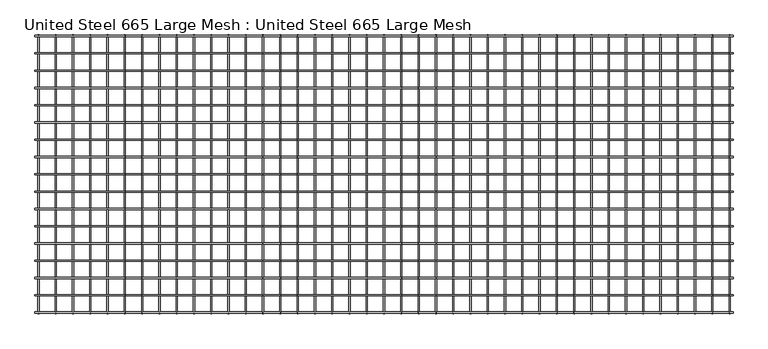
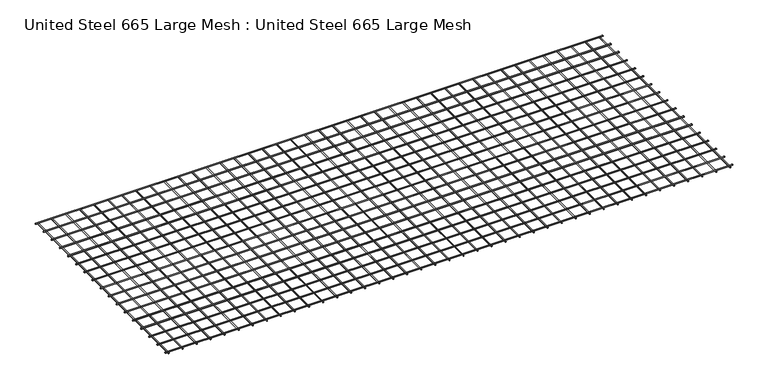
"""IFC4 building model written with IfcOpenShell, lengths in millimetres: proxy geometry, United Steel 665 Large Mesh : United Steel 665 Large Mesh."""

from ifc_helpers import new_model, si_unit, point, frame, frame_2d, origin, place, context, project, spatial, circle_curve, trimmed, segment, composite_curve, outline, extrude, source, transform, mapped, element, save


def united_steel_665_large_mesh_united_steel_665_large_mesh_bb33bdd1(model_context):
    return source(origin(), model_context, "Body", "SweptSolid", [
        extrude(outline(composite_curve([segment(trimmed(circle_curve(frame_2d((-160.2412954, 15.8848475)), 5.3), [point((-165.5412954, 15.8848475))], [point((-154.9412954, 15.8848475))], False, "CARTESIAN"), True, "CONTINUOUS"), segment(trimmed(circle_curve(frame_2d((-160.2412954, 15.8848475)), 5.3), [point((-154.9412954, 15.8848475))], [point((-165.5412954, 15.8848475))], False, "CARTESIAN"), True, "CONTINUOUS")], self_intersect=False)), frame((-6060.0, 0.0, 0.0), z_axis=(1.0, 0.0, 0.0), x_axis=(0.0, 1.0, 0.0)), (0.0, 0.0, 1.0), 6060.0),
        extrude(outline(composite_curve([segment(trimmed(circle_curve(frame_2d((-310.2279647, 15.8848475)), 5.3), [point((-315.5279647, 15.8848475))], [point((-304.9279647, 15.8848475))], False, "CARTESIAN"), True, "CONTINUOUS"), segment(trimmed(circle_curve(frame_2d((-310.2279647, 15.8848475)), 5.3), [point((-304.9279647, 15.8848475))], [point((-315.5279647, 15.8848475))], False, "CARTESIAN"), True, "CONTINUOUS")], self_intersect=False)), frame((-6060.0, 0.0, 0.0), z_axis=(1.0, 0.0, 0.0), x_axis=(0.0, 1.0, 0.0)), (0.0, 0.0, 1.0), 6060.0),
        extrude(outline(composite_curve([segment(trimmed(circle_curve(frame_2d((-460.214634, 15.8848475)), 5.3), [point((-465.514634, 15.8848475))], [point((-454.914634, 15.8848475))], False, "CARTESIAN"), True, "CONTINUOUS"), segment(trimmed(circle_curve(frame_2d((-460.214634, 15.8848475)), 5.3), [point((-454.914634, 15.8848475))], [point((-465.514634, 15.8848475))], False, "CARTESIAN"), True, "CONTINUOUS")], self_intersect=False)), frame((-6060.0, 0.0, 0.0), z_axis=(1.0, 0.0, 0.0), x_axis=(0.0, 1.0, 0.0)), (0.0, 0.0, 1.0), 6060.0),
        extrude(outline(composite_curve([segment(trimmed(circle_curve(frame_2d((5.2898928, -5879.1179494)), 5.3), [point((5.2898928, -5884.4179494))], [point((5.2898928, -5873.8179494))], False, "CARTESIAN"), True, "CONTINUOUS"), segment(trimmed(circle_curve(frame_2d((5.2898928, -5879.1179494)), 5.3), [point((5.2898928, -5873.8179494))], [point((5.2898928, -5884.4179494))], False, "CARTESIAN"), True, "CONTINUOUS")], self_intersect=False)), frame((0.0, -2420.0, 0.0), z_axis=(0.0, 1.0, 0.0), x_axis=(0.0, 0.0, 1.0)), (0.0, 0.0, 1.0), 2420.0),
        extrude(outline(composite_curve([segment(trimmed(circle_curve(frame_2d((5.2898928, -5729.136548)), 5.3), [point((5.2898928, -5734.436548))], [point((5.2898928, -5723.836548))], False, "CARTESIAN"), True, "CONTINUOUS"), segment(trimmed(circle_curve(frame_2d((5.2898928, -5729.136548)), 5.3), [point((5.2898928, -5723.836548))], [point((5.2898928, -5734.436548))], False, "CARTESIAN"), True, "CONTINUOUS")], self_intersect=False)), frame((0.0, -2420.0, 0.0), z_axis=(0.0, 1.0, 0.0), x_axis=(0.0, 0.0, 1.0)), (0.0, 0.0, 1.0), 2420.0),
        extrude(outline(composite_curve([segment(trimmed(circle_curve(frame_2d((5.2898928, -5579.1551467)), 5.3), [point((5.2898928, -5584.4551467))], [point((5.2898928, -5573.8551467))], False, "CARTESIAN"), True, "CONTINUOUS"), segment(trimmed(circle_curve(frame_2d((5.2898928, -5579.1551467)), 5.3), [point((5.2898928, -5573.8551467))], [point((5.2898928, -5584.4551467))], False, "CARTESIAN"), True, "CONTINUOUS")], self_intersect=False)), frame((0.0, -2420.0, 0.0), z_axis=(0.0, 1.0, 0.0), x_axis=(0.0, 0.0, 1.0)), (0.0, 0.0, 1.0), 2420.0),
        extrude(outline(composite_curve([segment(trimmed(circle_curve(frame_2d((5.2898928, -5429.1737454)), 5.3), [point((5.2898928, -5434.4737454))], [point((5.2898928, -5423.8737454))], False, "CARTESIAN"), True, "CONTINUOUS"), segment(trimmed(circle_curve(frame_2d((5.2898928, -5429.1737454)), 5.3), [point((5.2898928, -5423.8737454))], [point((5.2898928, -5434.4737454))], False, "CARTESIAN"), True, "CONTINUOUS")], self_intersect=False)), frame((0.0, -2420.0, 0.0), z_axis=(0.0, 1.0, 0.0), x_axis=(0.0, 0.0, 1.0)), (0.0, 0.0, 1.0), 2420.0),
        extrude(outline(composite_curve([segment(trimmed(circle_curve(frame_2d((5.2898928, -5279.1923441)), 5.3), [point((5.2898928, -5284.4923441))], [point((5.2898928, -5273.8923441))], False, "CARTESIAN"), True, "CONTINUOUS"), segment(trimmed(circle_curve(frame_2d((5.2898928, -5279.1923441)), 5.3), [point((5.2898928, -5273.8923441))], [point((5.2898928, -5284.4923441))], False, "CARTESIAN"), True, "CONTINUOUS")], self_intersect=False)), frame((0.0, -2420.0, 0.0), z_axis=(0.0, 1.0, 0.0), x_axis=(0.0, 0.0, 1.0)), (0.0, 0.0, 1.0), 2420.0),
        extrude(outline(composite_curve([segment(trimmed(circle_curve(frame_2d((5.2898928, -5129.2109428)), 5.3), [point((5.2898928, -5134.5109428))], [point((5.2898928, -5123.9109428))], False, "CARTESIAN"), True, "CONTINUOUS"), segment(trimmed(circle_curve(frame_2d((5.2898928, -5129.2109428)), 5.3), [point((5.2898928, -5123.9109428))], [point((5.2898928, -5134.5109428))], False, "CARTESIAN"), True, "CONTINUOUS")], self_intersect=False)), frame((0.0, -2420.0, 0.0), z_axis=(0.0, 1.0, 0.0), x_axis=(0.0, 0.0, 1.0)), (0.0, 0.0, 1.0), 2420.0),
        extrude(outline(composite_curve([segment(trimmed(circle_curve(frame_2d((5.2898928, -4979.2295415)), 5.3), [point((5.2898928, -4984.5295415))], [point((5.2898928, -4973.9295415))], False, "CARTESIAN"), True, "CONTINUOUS"), segment(trimmed(circle_curve(frame_2d((5.2898928, -4979.2295415)), 5.3), [point((5.2898928, -4973.9295415))], [point((5.2898928, -4984.5295415))], False, "CARTESIAN"), True, "CONTINUOUS")], self_intersect=False)), frame((0.0, -2420.0, 0.0), z_axis=(0.0, 1.0, 0.0), x_axis=(0.0, 0.0, 1.0)), (0.0, 0.0, 1.0), 2420.0),
        extrude(outline(composite_curve([segment(trimmed(circle_curve(frame_2d((5.2898928, -4829.2481401)), 5.3), [point((5.2898928, -4834.5481401))], [point((5.2898928, -4823.9481401))], False, "CARTESIAN"), True, "CONTINUOUS"), segment(trimmed(circle_curve(frame_2d((5.2898928, -4829.2481401)), 5.3), [point((5.2898928, -4823.9481401))], [point((5.2898928, -4834.5481401))], False, "CARTESIAN"), True, "CONTINUOUS")], self_intersect=False)), frame((0.0, -2420.0, 0.0), z_axis=(0.0, 1.0, 0.0), x_axis=(0.0, 0.0, 1.0)), (0.0, 0.0, 1.0), 2420.0),
        extrude(outline(composite_curve([segment(trimmed(circle_curve(frame_2d((5.2898928, -4679.2667388)), 5.3), [point((5.2898928, -4684.5667388))], [point((5.2898928, -4673.9667388))], False, "CARTESIAN"), True, "CONTINUOUS"), segment(trimmed(circle_curve(frame_2d((5.2898928, -4679.2667388)), 5.3), [point((5.2898928, -4673.9667388))], [point((5.2898928, -4684.5667388))], False, "CARTESIAN"), True, "CONTINUOUS")], self_intersect=False)), frame((0.0, -2420.0, 0.0), z_axis=(0.0, 1.0, 0.0), x_axis=(0.0, 0.0, 1.0)), (0.0, 0.0, 1.0), 2420.0),
        extrude(outline(composite_curve([segment(trimmed(circle_curve(frame_2d((5.2898928, -4529.2853375)), 5.3), [point((5.2898928, -4534.5853375))], [point((5.2898928, -4523.9853375))], False, "CARTESIAN"), True, "CONTINUOUS"), segment(trimmed(circle_curve(frame_2d((5.2898928, -4529.2853375)), 5.3), [point((5.2898928, -4523.9853375))], [point((5.2898928, -4534.5853375))], False, "CARTESIAN"), True, "CONTINUOUS")], self_intersect=False)), frame((0.0, -2420.0, 0.0), z_axis=(0.0, 1.0, 0.0), x_axis=(0.0, 0.0, 1.0)), (0.0, 0.0, 1.0), 2420.0),
        extrude(outline(composite_curve([segment(trimmed(circle_curve(frame_2d((-610.2013032, 15.8848475)), 5.3), [point((-615.5013032, 15.8848475))], [point((-604.9013032, 15.8848475))], False, "CARTESIAN"), True, "CONTINUOUS"), segment(trimmed(circle_curve(frame_2d((-610.2013032, 15.8848475)), 5.3), [point((-604.9013032, 15.8848475))], [point((-615.5013032, 15.8848475))], False, "CARTESIAN"), True, "CONTINUOUS")], self_intersect=False)), frame((-6060.0, 0.0, 0.0), z_axis=(1.0, 0.0, 0.0), x_axis=(0.0, 1.0, 0.0)), (0.0, 0.0, 1.0), 6060.0),
        extrude(outline(composite_curve([segment(trimmed(circle_curve(frame_2d((5.2898928, -4379.3039362)), 5.3), [point((5.2898928, -4384.6039362))], [point((5.2898928, -4374.0039362))], False, "CARTESIAN"), True, "CONTINUOUS"), segment(trimmed(circle_curve(frame_2d((5.2898928, -4379.3039362)), 5.3), [point((5.2898928, -4374.0039362))], [point((5.2898928, -4384.6039362))], False, "CARTESIAN"), True, "CONTINUOUS")], self_intersect=False)), frame((0.0, -2420.0, 0.0), z_axis=(0.0, 1.0, 0.0), x_axis=(0.0, 0.0, 1.0)), (0.0, 0.0, 1.0), 2420.0),
        extrude(outline(composite_curve([segment(trimmed(circle_curve(frame_2d((-760.1879725, 15.8848475)), 5.3), [point((-765.4879725, 15.8848475))], [point((-754.8879725, 15.8848475))], False, "CARTESIAN"), True, "CONTINUOUS"), segment(trimmed(circle_curve(frame_2d((-760.1879725, 15.8848475)), 5.3), [point((-754.8879725, 15.8848475))], [point((-765.4879725, 15.8848475))], False, "CARTESIAN"), True, "CONTINUOUS")], self_intersect=False)), frame((-6060.0, 0.0, 0.0), z_axis=(1.0, 0.0, 0.0), x_axis=(0.0, 1.0, 0.0)), (0.0, 0.0, 1.0), 6060.0),
        extrude(outline(composite_curve([segment(trimmed(circle_curve(frame_2d((-910.1746417, 15.8848475)), 5.3), [point((-915.4746417, 15.8848475))], [point((-904.8746417, 15.8848475))], False, "CARTESIAN"), True, "CONTINUOUS"), segment(trimmed(circle_curve(frame_2d((-910.1746417, 15.8848475)), 5.3), [point((-904.8746417, 15.8848475))], [point((-915.4746417, 15.8848475))], False, "CARTESIAN"), True, "CONTINUOUS")], self_intersect=False)), frame((-6060.0, 0.0, 0.0), z_axis=(1.0, 0.0, 0.0), x_axis=(0.0, 1.0, 0.0)), (0.0, 0.0, 1.0), 6060.0),
        extrude(outline(composite_curve([segment(trimmed(circle_curve(frame_2d((5.2898928, -4229.3225349)), 5.3), [point((5.2898928, -4234.6225349))], [point((5.2898928, -4224.0225349))], False, "CARTESIAN"), True, "CONTINUOUS"), segment(trimmed(circle_curve(frame_2d((5.2898928, -4229.3225349)), 5.3), [point((5.2898928, -4224.0225349))], [point((5.2898928, -4234.6225349))], False, "CARTESIAN"), True, "CONTINUOUS")], self_intersect=False)), frame((0.0, -2420.0, 0.0), z_axis=(0.0, 1.0, 0.0), x_axis=(0.0, 0.0, 1.0)), (0.0, 0.0, 1.0), 2420.0),
        extrude(outline(composite_curve([segment(trimmed(circle_curve(frame_2d((5.2898928, -4079.3411336)), 5.3), [point((5.2898928, -4084.6411336))], [point((5.2898928, -4074.0411336))], False, "CARTESIAN"), True, "CONTINUOUS"), segment(trimmed(circle_curve(frame_2d((5.2898928, -4079.3411336)), 5.3), [point((5.2898928, -4074.0411336))], [point((5.2898928, -4084.6411336))], False, "CARTESIAN"), True, "CONTINUOUS")], self_intersect=False)), frame((0.0, -2420.0, 0.0), z_axis=(0.0, 1.0, 0.0), x_axis=(0.0, 0.0, 1.0)), (0.0, 0.0, 1.0), 2420.0),
        extrude(outline(composite_curve([segment(trimmed(circle_curve(frame_2d((5.2898928, -3929.3597323)), 5.3), [point((5.2898928, -3934.6597323))], [point((5.2898928, -3924.0597323))], False, "CARTESIAN"), True, "CONTINUOUS"), segment(trimmed(circle_curve(frame_2d((5.2898928, -3929.3597323)), 5.3), [point((5.2898928, -3924.0597323))], [point((5.2898928, -3934.6597323))], False, "CARTESIAN"), True, "CONTINUOUS")], self_intersect=False)), frame((0.0, -2420.0, 0.0), z_axis=(0.0, 1.0, 0.0), x_axis=(0.0, 0.0, 1.0)), (0.0, 0.0, 1.0), 2420.0),
        extrude(outline(composite_curve([segment(trimmed(circle_curve(frame_2d((5.2898928, -3779.3783309)), 5.3), [point((5.2898928, -3784.6783309))], [point((5.2898928, -3774.0783309))], False, "CARTESIAN"), True, "CONTINUOUS"), segment(trimmed(circle_curve(frame_2d((5.2898928, -3779.3783309)), 5.3), [point((5.2898928, -3774.0783309))], [point((5.2898928, -3784.6783309))], False, "CARTESIAN"), True, "CONTINUOUS")], self_intersect=False)), frame((0.0, -2420.0, 0.0), z_axis=(0.0, 1.0, 0.0), x_axis=(0.0, 0.0, 1.0)), (0.0, 0.0, 1.0), 2420.0),
        extrude(outline(composite_curve([segment(trimmed(circle_curve(frame_2d((5.2898928, -3629.3969296)), 5.3), [point((5.2898928, -3634.6969296))], [point((5.2898928, -3624.0969296))], False, "CARTESIAN"), True, "CONTINUOUS"), segment(trimmed(circle_curve(frame_2d((5.2898928, -3629.3969296)), 5.3), [point((5.2898928, -3624.0969296))], [point((5.2898928, -3634.6969296))], False, "CARTESIAN"), True, "CONTINUOUS")], self_intersect=False)), frame((0.0, -2420.0, 0.0), z_axis=(0.0, 1.0, 0.0), x_axis=(0.0, 0.0, 1.0)), (0.0, 0.0, 1.0), 2420.0),
        extrude(outline(composite_curve([segment(trimmed(circle_curve(frame_2d((5.2898928, -3479.4155283)), 5.3), [point((5.2898928, -3484.7155283))], [point((5.2898928, -3474.1155283))], False, "CARTESIAN"), True, "CONTINUOUS"), segment(trimmed(circle_curve(frame_2d((5.2898928, -3479.4155283)), 5.3), [point((5.2898928, -3474.1155283))], [point((5.2898928, -3484.7155283))], False, "CARTESIAN"), True, "CONTINUOUS")], self_intersect=False)), frame((0.0, -2420.0, 0.0), z_axis=(0.0, 1.0, 0.0), x_axis=(0.0, 0.0, 1.0)), (0.0, 0.0, 1.0), 2420.0),
        extrude(outline(composite_curve([segment(trimmed(circle_curve(frame_2d((5.2898928, -3329.434127)), 5.3), [point((5.2898928, -3334.734127))], [point((5.2898928, -3324.134127))], False, "CARTESIAN"), True, "CONTINUOUS"), segment(trimmed(circle_curve(frame_2d((5.2898928, -3329.434127)), 5.3), [point((5.2898928, -3324.134127))], [point((5.2898928, -3334.734127))], False, "CARTESIAN"), True, "CONTINUOUS")], self_intersect=False)), frame((0.0, -2420.0, 0.0), z_axis=(0.0, 1.0, 0.0), x_axis=(0.0, 0.0, 1.0)), (0.0, 0.0, 1.0), 2420.0),
        extrude(outline(composite_curve([segment(trimmed(circle_curve(frame_2d((-1060.161311, 15.8848475)), 5.3), [point((-1065.461311, 15.8848475))], [point((-1054.861311, 15.8848475))], False, "CARTESIAN"), True, "CONTINUOUS"), segment(trimmed(circle_curve(frame_2d((-1060.161311, 15.8848475)), 5.3), [point((-1054.861311, 15.8848475))], [point((-1065.461311, 15.8848475))], False, "CARTESIAN"), True, "CONTINUOUS")], self_intersect=False)), frame((-6060.0, 0.0, 0.0), z_axis=(1.0, 0.0, 0.0), x_axis=(0.0, 1.0, 0.0)), (0.0, 0.0, 1.0), 6060.0),
        extrude(outline(composite_curve([segment(trimmed(circle_curve(frame_2d((-1210.1479802, 15.8848475)), 5.3), [point((-1215.4479802, 15.8848475))], [point((-1204.8479802, 15.8848475))], False, "CARTESIAN"), True, "CONTINUOUS"), segment(trimmed(circle_curve(frame_2d((-1210.1479802, 15.8848475)), 5.3), [point((-1204.8479802, 15.8848475))], [point((-1215.4479802, 15.8848475))], False, "CARTESIAN"), True, "CONTINUOUS")], self_intersect=False)), frame((-6060.0, 0.0, 0.0), z_axis=(1.0, 0.0, 0.0), x_axis=(0.0, 1.0, 0.0)), (0.0, 0.0, 1.0), 6060.0),
        extrude(outline(composite_curve([segment(trimmed(circle_curve(frame_2d((-1360.1346495, 15.8848475)), 5.3), [point((-1365.4346495, 15.8848475))], [point((-1354.8346495, 15.8848475))], False, "CARTESIAN"), True, "CONTINUOUS"), segment(trimmed(circle_curve(frame_2d((-1360.1346495, 15.8848475)), 5.3), [point((-1354.8346495, 15.8848475))], [point((-1365.4346495, 15.8848475))], False, "CARTESIAN"), True, "CONTINUOUS")], self_intersect=False)), frame((-6060.0, 0.0, 0.0), z_axis=(1.0, 0.0, 0.0), x_axis=(0.0, 1.0, 0.0)), (0.0, 0.0, 1.0), 6060.0),
        extrude(outline(composite_curve([segment(trimmed(circle_curve(frame_2d((-1510.1213187, 15.8848475)), 5.3), [point((-1515.4213187, 15.8848475))], [point((-1504.8213187, 15.8848475))], False, "CARTESIAN"), True, "CONTINUOUS"), segment(trimmed(circle_curve(frame_2d((-1510.1213187, 15.8848475)), 5.3), [point((-1504.8213187, 15.8848475))], [point((-1515.4213187, 15.8848475))], False, "CARTESIAN"), True, "CONTINUOUS")], self_intersect=False)), frame((-6060.0, 0.0, 0.0), z_axis=(1.0, 0.0, 0.0), x_axis=(0.0, 1.0, 0.0)), (0.0, 0.0, 1.0), 6060.0),
        extrude(outline(composite_curve([segment(trimmed(circle_curve(frame_2d((-1660.107988, 15.8848475)), 5.3), [point((-1665.407988, 15.8848475))], [point((-1654.807988, 15.8848475))], False, "CARTESIAN"), True, "CONTINUOUS"), segment(trimmed(circle_curve(frame_2d((-1660.107988, 15.8848475)), 5.3), [point((-1654.807988, 15.8848475))], [point((-1665.407988, 15.8848475))], False, "CARTESIAN"), True, "CONTINUOUS")], self_intersect=False)), frame((-6060.0, 0.0, 0.0), z_axis=(1.0, 0.0, 0.0), x_axis=(0.0, 1.0, 0.0)), (0.0, 0.0, 1.0), 6060.0),
        extrude(outline(composite_curve([segment(trimmed(circle_curve(frame_2d((-1810.0946573, 15.8848475)), 5.3), [point((-1815.3946573, 15.8848475))], [point((-1804.7946573, 15.8848475))], False, "CARTESIAN"), True, "CONTINUOUS"), segment(trimmed(circle_curve(frame_2d((-1810.0946573, 15.8848475)), 5.3), [point((-1804.7946573, 15.8848475))], [point((-1815.3946573, 15.8848475))], False, "CARTESIAN"), True, "CONTINUOUS")], self_intersect=False)), frame((-6060.0, 0.0, 0.0), z_axis=(1.0, 0.0, 0.0), x_axis=(0.0, 1.0, 0.0)), (0.0, 0.0, 1.0), 6060.0),
        extrude(outline(composite_curve([segment(trimmed(circle_curve(frame_2d((-1960.0813265, 15.8848475)), 5.3), [point((-1965.3813265, 15.8848475))], [point((-1954.7813265, 15.8848475))], False, "CARTESIAN"), True, "CONTINUOUS"), segment(trimmed(circle_curve(frame_2d((-1960.0813265, 15.8848475)), 5.3), [point((-1954.7813265, 15.8848475))], [point((-1965.3813265, 15.8848475))], False, "CARTESIAN"), True, "CONTINUOUS")], self_intersect=False)), frame((-6060.0, 0.0, 0.0), z_axis=(1.0, 0.0, 0.0), x_axis=(0.0, 1.0, 0.0)), (0.0, 0.0, 1.0), 6060.0),
        extrude(outline(composite_curve([segment(trimmed(circle_curve(frame_2d((-2110.0679958, 15.8848475)), 5.3), [point((-2115.3679958, 15.8848475))], [point((-2104.7679958, 15.8848475))], False, "CARTESIAN"), True, "CONTINUOUS"), segment(trimmed(circle_curve(frame_2d((-2110.0679958, 15.8848475)), 5.3), [point((-2104.7679958, 15.8848475))], [point((-2115.3679958, 15.8848475))], False, "CARTESIAN"), True, "CONTINUOUS")], self_intersect=False)), frame((-6060.0, 0.0, 0.0), z_axis=(1.0, 0.0, 0.0), x_axis=(0.0, 1.0, 0.0)), (0.0, 0.0, 1.0), 6060.0),
        extrude(outline(composite_curve([segment(trimmed(circle_curve(frame_2d((-2260.054665, 15.8848475)), 5.3), [point((-2265.354665, 15.8848475))], [point((-2254.754665, 15.8848475))], False, "CARTESIAN"), True, "CONTINUOUS"), segment(trimmed(circle_curve(frame_2d((-2260.054665, 15.8848475)), 5.3), [point((-2254.754665, 15.8848475))], [point((-2265.354665, 15.8848475))], False, "CARTESIAN"), True, "CONTINUOUS")], self_intersect=False)), frame((-6060.0, 0.0, 0.0), z_axis=(1.0, 0.0, 0.0), x_axis=(0.0, 1.0, 0.0)), (0.0, 0.0, 1.0), 6060.0),
        extrude(outline(composite_curve([segment(trimmed(circle_curve(frame_2d((-10.2546262, 15.8848475)), 5.3), [point((-15.5546262, 15.8848475))], [point((-4.9546262, 15.8848475))], False, "CARTESIAN"), True, "CONTINUOUS"), segment(trimmed(circle_curve(frame_2d((-10.2546262, 15.8848475)), 5.3), [point((-4.9546262, 15.8848475))], [point((-15.5546262, 15.8848475))], False, "CARTESIAN"), True, "CONTINUOUS")], self_intersect=False)), frame((-6060.0, 0.0, 0.0), z_axis=(1.0, 0.0, 0.0), x_axis=(0.0, 1.0, 0.0)), (0.0, 0.0, 1.0), 6060.0),
        extrude(outline(composite_curve([segment(trimmed(circle_curve(frame_2d((-2410.0413343, 15.8848475)), 5.3), [point((-2415.3413343, 15.8848475))], [point((-2404.7413343, 15.8848475))], False, "CARTESIAN"), True, "CONTINUOUS"), segment(trimmed(circle_curve(frame_2d((-2410.0413343, 15.8848475)), 5.3), [point((-2404.7413343, 15.8848475))], [point((-2415.3413343, 15.8848475))], False, "CARTESIAN"), True, "CONTINUOUS")], self_intersect=False)), frame((-6060.0, 0.0, 0.0), z_axis=(1.0, 0.0, 0.0), x_axis=(0.0, 1.0, 0.0)), (0.0, 0.0, 1.0), 6060.0),
        extrude(outline(composite_curve([segment(trimmed(circle_curve(frame_2d((5.2898928, -3179.4527257)), 5.3), [point((5.2898928, -3184.7527257))], [point((5.2898928, -3174.1527257))], False, "CARTESIAN"), True, "CONTINUOUS"), segment(trimmed(circle_curve(frame_2d((5.2898928, -3179.4527257)), 5.3), [point((5.2898928, -3174.1527257))], [point((5.2898928, -3184.7527257))], False, "CARTESIAN"), True, "CONTINUOUS")], self_intersect=False)), frame((0.0, -2420.0, 0.0), z_axis=(0.0, 1.0, 0.0), x_axis=(0.0, 0.0, 1.0)), (0.0, 0.0, 1.0), 2420.0),
        extrude(outline(composite_curve([segment(trimmed(circle_curve(frame_2d((5.2898928, -3029.4713244)), 5.3), [point((5.2898928, -3034.7713244))], [point((5.2898928, -3024.1713244))], False, "CARTESIAN"), True, "CONTINUOUS"), segment(trimmed(circle_curve(frame_2d((5.2898928, -3029.4713244)), 5.3), [point((5.2898928, -3024.1713244))], [point((5.2898928, -3034.7713244))], False, "CARTESIAN"), True, "CONTINUOUS")], self_intersect=False)), frame((0.0, -2420.0, 0.0), z_axis=(0.0, 1.0, 0.0), x_axis=(0.0, 0.0, 1.0)), (0.0, 0.0, 1.0), 2420.0),
        extrude(outline(composite_curve([segment(trimmed(circle_curve(frame_2d((5.2898928, -2879.489923)), 5.3), [point((5.2898928, -2884.789923))], [point((5.2898928, -2874.189923))], False, "CARTESIAN"), True, "CONTINUOUS"), segment(trimmed(circle_curve(frame_2d((5.2898928, -2879.489923)), 5.3), [point((5.2898928, -2874.189923))], [point((5.2898928, -2884.789923))], False, "CARTESIAN"), True, "CONTINUOUS")], self_intersect=False)), frame((0.0, -2420.0, 0.0), z_axis=(0.0, 1.0, 0.0), x_axis=(0.0, 0.0, 1.0)), (0.0, 0.0, 1.0), 2420.0),
        extrude(outline(composite_curve([segment(trimmed(circle_curve(frame_2d((5.2898928, -2729.5085217)), 5.3), [point((5.2898928, -2734.8085217))], [point((5.2898928, -2724.2085217))], False, "CARTESIAN"), True, "CONTINUOUS"), segment(trimmed(circle_curve(frame_2d((5.2898928, -2729.5085217)), 5.3), [point((5.2898928, -2724.2085217))], [point((5.2898928, -2734.8085217))], False, "CARTESIAN"), True, "CONTINUOUS")], self_intersect=False)), frame((0.0, -2420.0, 0.0), z_axis=(0.0, 1.0, 0.0), x_axis=(0.0, 0.0, 1.0)), (0.0, 0.0, 1.0), 2420.0),
        extrude(outline(composite_curve([segment(trimmed(circle_curve(frame_2d((5.2898928, -2579.5271204)), 5.3), [point((5.2898928, -2584.8271204))], [point((5.2898928, -2574.2271204))], False, "CARTESIAN"), True, "CONTINUOUS"), segment(trimmed(circle_curve(frame_2d((5.2898928, -2579.5271204)), 5.3), [point((5.2898928, -2574.2271204))], [point((5.2898928, -2584.8271204))], False, "CARTESIAN"), True, "CONTINUOUS")], self_intersect=False)), frame((0.0, -2420.0, 0.0), z_axis=(0.0, 1.0, 0.0), x_axis=(0.0, 0.0, 1.0)), (0.0, 0.0, 1.0), 2420.0),
        extrude(outline(composite_curve([segment(trimmed(circle_curve(frame_2d((5.2898928, -2429.5457191)), 5.3), [point((5.2898928, -2434.8457191))], [point((5.2898928, -2424.2457191))], False, "CARTESIAN"), True, "CONTINUOUS"), segment(trimmed(circle_curve(frame_2d((5.2898928, -2429.5457191)), 5.3), [point((5.2898928, -2424.2457191))], [point((5.2898928, -2434.8457191))], False, "CARTESIAN"), True, "CONTINUOUS")], self_intersect=False)), frame((0.0, -2420.0, 0.0), z_axis=(0.0, 1.0, 0.0), x_axis=(0.0, 0.0, 1.0)), (0.0, 0.0, 1.0), 2420.0),
        extrude(outline(composite_curve([segment(trimmed(circle_curve(frame_2d((5.2898928, -2279.5643178)), 5.3), [point((5.2898928, -2284.8643178))], [point((5.2898928, -2274.2643178))], False, "CARTESIAN"), True, "CONTINUOUS"), segment(trimmed(circle_curve(frame_2d((5.2898928, -2279.5643178)), 5.3), [point((5.2898928, -2274.2643178))], [point((5.2898928, -2284.8643178))], False, "CARTESIAN"), True, "CONTINUOUS")], self_intersect=False)), frame((0.0, -2420.0, 0.0), z_axis=(0.0, 1.0, 0.0), x_axis=(0.0, 0.0, 1.0)), (0.0, 0.0, 1.0), 2420.0),
        extrude(outline(composite_curve([segment(trimmed(circle_curve(frame_2d((5.2898928, -2129.5829165)), 5.3), [point((5.2898928, -2134.8829165))], [point((5.2898928, -2124.2829165))], False, "CARTESIAN"), True, "CONTINUOUS"), segment(trimmed(circle_curve(frame_2d((5.2898928, -2129.5829165)), 5.3), [point((5.2898928, -2124.2829165))], [point((5.2898928, -2134.8829165))], False, "CARTESIAN"), True, "CONTINUOUS")], self_intersect=False)), frame((0.0, -2420.0, 0.0), z_axis=(0.0, 1.0, 0.0), x_axis=(0.0, 0.0, 1.0)), (0.0, 0.0, 1.0), 2420.0),
        extrude(outline(composite_curve([segment(trimmed(circle_curve(frame_2d((5.2898928, -1979.6015152)), 5.3), [point((5.2898928, -1984.9015152))], [point((5.2898928, -1974.3015152))], False, "CARTESIAN"), True, "CONTINUOUS"), segment(trimmed(circle_curve(frame_2d((5.2898928, -1979.6015152)), 5.3), [point((5.2898928, -1974.3015152))], [point((5.2898928, -1984.9015152))], False, "CARTESIAN"), True, "CONTINUOUS")], self_intersect=False)), frame((0.0, -2420.0, 0.0), z_axis=(0.0, 1.0, 0.0), x_axis=(0.0, 0.0, 1.0)), (0.0, 0.0, 1.0), 2420.0),
        extrude(outline(composite_curve([segment(trimmed(circle_curve(frame_2d((5.2898928, -1829.6201138)), 5.3), [point((5.2898928, -1834.9201138))], [point((5.2898928, -1824.3201138))], False, "CARTESIAN"), True, "CONTINUOUS"), segment(trimmed(circle_curve(frame_2d((5.2898928, -1829.6201138)), 5.3), [point((5.2898928, -1824.3201138))], [point((5.2898928, -1834.9201138))], False, "CARTESIAN"), True, "CONTINUOUS")], self_intersect=False)), frame((0.0, -2420.0, 0.0), z_axis=(0.0, 1.0, 0.0), x_axis=(0.0, 0.0, 1.0)), (0.0, 0.0, 1.0), 2420.0),
        extrude(outline(composite_curve([segment(trimmed(circle_curve(frame_2d((5.2898928, -1679.6387125)), 5.3), [point((5.2898928, -1684.9387125))], [point((5.2898928, -1674.3387125))], False, "CARTESIAN"), True, "CONTINUOUS"), segment(trimmed(circle_curve(frame_2d((5.2898928, -1679.6387125)), 5.3), [point((5.2898928, -1674.3387125))], [point((5.2898928, -1684.9387125))], False, "CARTESIAN"), True, "CONTINUOUS")], self_intersect=False)), frame((0.0, -2420.0, 0.0), z_axis=(0.0, 1.0, 0.0), x_axis=(0.0, 0.0, 1.0)), (0.0, 0.0, 1.0), 2420.0),
        extrude(outline(composite_curve([segment(trimmed(circle_curve(frame_2d((5.2898928, -1529.6573112)), 5.3), [point((5.2898928, -1534.9573112))], [point((5.2898928, -1524.3573112))], False, "CARTESIAN"), True, "CONTINUOUS"), segment(trimmed(circle_curve(frame_2d((5.2898928, -1529.6573112)), 5.3), [point((5.2898928, -1524.3573112))], [point((5.2898928, -1534.9573112))], False, "CARTESIAN"), True, "CONTINUOUS")], self_intersect=False)), frame((0.0, -2420.0, 0.0), z_axis=(0.0, 1.0, 0.0), x_axis=(0.0, 0.0, 1.0)), (0.0, 0.0, 1.0), 2420.0),
        extrude(outline(composite_curve([segment(trimmed(circle_curve(frame_2d((5.2898928, -1379.6759099)), 5.3), [point((5.2898928, -1384.9759099))], [point((5.2898928, -1374.3759099))], False, "CARTESIAN"), True, "CONTINUOUS"), segment(trimmed(circle_curve(frame_2d((5.2898928, -1379.6759099)), 5.3), [point((5.2898928, -1374.3759099))], [point((5.2898928, -1384.9759099))], False, "CARTESIAN"), True, "CONTINUOUS")], self_intersect=False)), frame((0.0, -2420.0, 0.0), z_axis=(0.0, 1.0, 0.0), x_axis=(0.0, 0.0, 1.0)), (0.0, 0.0, 1.0), 2420.0),
        extrude(outline(composite_curve([segment(trimmed(circle_curve(frame_2d((5.2898928, -1229.6945086)), 5.3), [point((5.2898928, -1234.9945086))], [point((5.2898928, -1224.3945086))], False, "CARTESIAN"), True, "CONTINUOUS"), segment(trimmed(circle_curve(frame_2d((5.2898928, -1229.6945086)), 5.3), [point((5.2898928, -1224.3945086))], [point((5.2898928, -1234.9945086))], False, "CARTESIAN"), True, "CONTINUOUS")], self_intersect=False)), frame((0.0, -2420.0, 0.0), z_axis=(0.0, 1.0, 0.0), x_axis=(0.0, 0.0, 1.0)), (0.0, 0.0, 1.0), 2420.0),
        extrude(outline(composite_curve([segment(trimmed(circle_curve(frame_2d((5.2898928, -1079.7131073)), 5.3), [point((5.2898928, -1085.0131073))], [point((5.2898928, -1074.4131073))], False, "CARTESIAN"), True, "CONTINUOUS"), segment(trimmed(circle_curve(frame_2d((5.2898928, -1079.7131073)), 5.3), [point((5.2898928, -1074.4131073))], [point((5.2898928, -1085.0131073))], False, "CARTESIAN"), True, "CONTINUOUS")], self_intersect=False)), frame((0.0, -2420.0, 0.0), z_axis=(0.0, 1.0, 0.0), x_axis=(0.0, 0.0, 1.0)), (0.0, 0.0, 1.0), 2420.0),
        extrude(outline(composite_curve([segment(trimmed(circle_curve(frame_2d((5.2898928, -929.7317059)), 5.3), [point((5.2898928, -935.0317059))], [point((5.2898928, -924.4317059))], False, "CARTESIAN"), True, "CONTINUOUS"), segment(trimmed(circle_curve(frame_2d((5.2898928, -929.7317059)), 5.3), [point((5.2898928, -924.4317059))], [point((5.2898928, -935.0317059))], False, "CARTESIAN"), True, "CONTINUOUS")], self_intersect=False)), frame((0.0, -2420.0, 0.0), z_axis=(0.0, 1.0, 0.0), x_axis=(0.0, 0.0, 1.0)), (0.0, 0.0, 1.0), 2420.0),
        extrude(outline(composite_curve([segment(trimmed(circle_curve(frame_2d((5.2898928, -779.7503046)), 5.3), [point((5.2898928, -785.0503046))], [point((5.2898928, -774.4503046))], False, "CARTESIAN"), True, "CONTINUOUS"), segment(trimmed(circle_curve(frame_2d((5.2898928, -779.7503046)), 5.3), [point((5.2898928, -774.4503046))], [point((5.2898928, -785.0503046))], False, "CARTESIAN"), True, "CONTINUOUS")], self_intersect=False)), frame((0.0, -2420.0, 0.0), z_axis=(0.0, 1.0, 0.0), x_axis=(0.0, 0.0, 1.0)), (0.0, 0.0, 1.0), 2420.0),
        extrude(outline(composite_curve([segment(trimmed(circle_curve(frame_2d((5.2898928, -629.7689033)), 5.3), [point((5.2898928, -635.0689033))], [point((5.2898928, -624.4689033))], False, "CARTESIAN"), True, "CONTINUOUS"), segment(trimmed(circle_curve(frame_2d((5.2898928, -629.7689033)), 5.3), [point((5.2898928, -624.4689033))], [point((5.2898928, -635.0689033))], False, "CARTESIAN"), True, "CONTINUOUS")], self_intersect=False)), frame((0.0, -2420.0, 0.0), z_axis=(0.0, 1.0, 0.0), x_axis=(0.0, 0.0, 1.0)), (0.0, 0.0, 1.0), 2420.0),
        extrude(outline(composite_curve([segment(trimmed(circle_curve(frame_2d((5.2898928, -479.787502)), 5.3), [point((5.2898928, -485.087502))], [point((5.2898928, -474.487502))], False, "CARTESIAN"), True, "CONTINUOUS"), segment(trimmed(circle_curve(frame_2d((5.2898928, -479.787502)), 5.3), [point((5.2898928, -474.487502))], [point((5.2898928, -485.087502))], False, "CARTESIAN"), True, "CONTINUOUS")], self_intersect=False)), frame((0.0, -2420.0, 0.0), z_axis=(0.0, 1.0, 0.0), x_axis=(0.0, 0.0, 1.0)), (0.0, 0.0, 1.0), 2420.0),
        extrude(outline(composite_curve([segment(trimmed(circle_curve(frame_2d((5.2898928, -329.8061007)), 5.3), [point((5.2898928, -335.1061007))], [point((5.2898928, -324.5061007))], False, "CARTESIAN"), True, "CONTINUOUS"), segment(trimmed(circle_curve(frame_2d((5.2898928, -329.8061007)), 5.3), [point((5.2898928, -324.5061007))], [point((5.2898928, -335.1061007))], False, "CARTESIAN"), True, "CONTINUOUS")], self_intersect=False)), frame((0.0, -2420.0, 0.0), z_axis=(0.0, 1.0, 0.0), x_axis=(0.0, 0.0, 1.0)), (0.0, 0.0, 1.0), 2420.0),
        extrude(outline(composite_curve([segment(trimmed(circle_curve(frame_2d((5.2898928, -179.8246994)), 5.3), [point((5.2898928, -185.1246994))], [point((5.2898928, -174.5246994))], False, "CARTESIAN"), True, "CONTINUOUS"), segment(trimmed(circle_curve(frame_2d((5.2898928, -179.8246994)), 5.3), [point((5.2898928, -174.5246994))], [point((5.2898928, -185.1246994))], False, "CARTESIAN"), True, "CONTINUOUS")], self_intersect=False)), frame((0.0, -2420.0, 0.0), z_axis=(0.0, 1.0, 0.0), x_axis=(0.0, 0.0, 1.0)), (0.0, 0.0, 1.0), 2420.0),
        extrude(outline(composite_curve([segment(trimmed(circle_curve(frame_2d((5.2898928, -6029.0993507)), 5.3), [point((5.2898928, -6034.3993507))], [point((5.2898928, -6023.7993507))], False, "CARTESIAN"), True, "CONTINUOUS"), segment(trimmed(circle_curve(frame_2d((5.2898928, -6029.0993507)), 5.3), [point((5.2898928, -6023.7993507))], [point((5.2898928, -6034.3993507))], False, "CARTESIAN"), True, "CONTINUOUS")], self_intersect=False)), frame((0.0, -2420.0, 0.0), z_axis=(0.0, 1.0, 0.0), x_axis=(0.0, 0.0, 1.0)), (0.0, 0.0, 1.0), 2420.0),
        extrude(outline(composite_curve([segment(trimmed(circle_curve(frame_2d((5.2898928, -29.8432981)), 5.3), [point((5.2898928, -35.1432981))], [point((5.2898928, -24.5432981))], False, "CARTESIAN"), True, "CONTINUOUS"), segment(trimmed(circle_curve(frame_2d((5.2898928, -29.8432981)), 5.3), [point((5.2898928, -24.5432981))], [point((5.2898928, -35.1432981))], False, "CARTESIAN"), True, "CONTINUOUS")], self_intersect=False)), frame((0.0, -2420.0, 0.0), z_axis=(0.0, 1.0, 0.0), x_axis=(0.0, 0.0, 1.0)), (0.0, 0.0, 1.0), 2420.0),
    ])


if __name__ == "__main__":
    model = new_model("IFC4")
    model_context = context("Model", 3, world=origin())
    ifc_project = project(units=[si_unit("LENGTHUNIT", "METRE", prefix="MILLI")], contexts=[model_context])
    site = spatial("IfcSite", under=ifc_project)
    building = spatial("IfcBuilding", under=site)
    placement = place(None, origin())
    united_steel_665_large_mesh_united_steel_665_large_mesh_shape = united_steel_665_large_mesh_united_steel_665_large_mesh_bb33bdd1(model_context)
    element("IfcBuildingElementProxy", 1, Name="United Steel 665 Large Mesh : United Steel 665 Large Mesh", ObjectType="United Steel 665 Large Mesh : United Steel 665 Large Mesh", at=placement, inside=building, context=model_context, shape_type="MappedRepresentation", body=[
        mapped(united_steel_665_large_mesh_united_steel_665_large_mesh_shape, transform((0.0, 0.0, 0.0), x_axis=(1.0, 0.0, 0.0), y_axis=(0.0, 1.0, 0.0), z_axis=(0.0, 0.0, 1.0))),
    ])
    save(model, "model.ifc")
